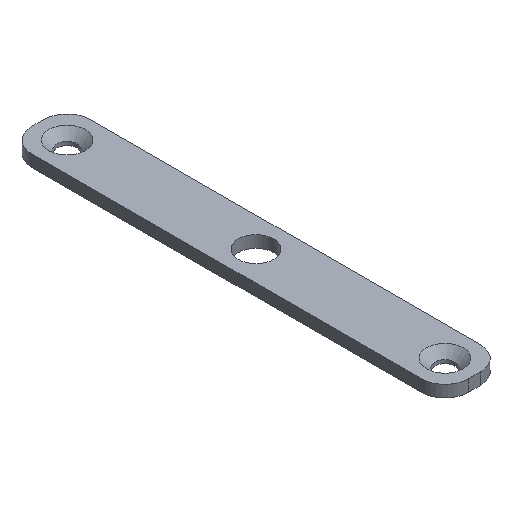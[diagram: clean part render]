
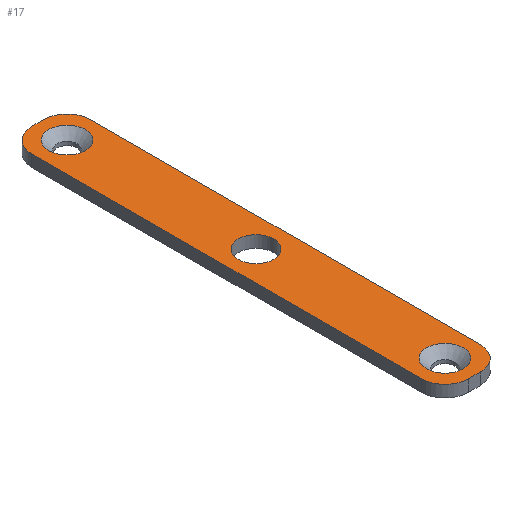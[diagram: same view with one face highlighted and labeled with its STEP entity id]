
A CAD part, isometric view. The second image highlights one B-rep face of the part: STEP entity #17.
In plain terms, the highlighted planar face has unit normal (0, 0, 1).
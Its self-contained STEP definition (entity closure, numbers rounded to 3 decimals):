
#17 = ADVANCED_FACE('',(#18,#88,#99,#110),#121,.T.);
#18 = FACE_BOUND('',#19,.T.);
#19 = EDGE_LOOP('',(#20,#30,#39,#47,#56,#64,#73,#81));
#20 = ORIENTED_EDGE('',*,*,#21,.F.);
#21 = EDGE_CURVE('',#22,#24,#26,.T.);
#22 = VERTEX_POINT('',#23);
#23 = CARTESIAN_POINT('',(-2.5,-4.11,9.5));
#24 = VERTEX_POINT('',#25);
#25 = CARTESIAN_POINT('',(-2.5,28.89,9.5));
#26 = LINE('',#27,#28);
#27 = CARTESIAN_POINT('',(-2.5,-6.11,9.5));
#28 = VECTOR('',#29,1.);
#29 = DIRECTION('',(0.,1.,0.));
#30 = ORIENTED_EDGE('',*,*,#31,.T.);
#31 = EDGE_CURVE('',#22,#32,#34,.T.);
#32 = VERTEX_POINT('',#33);
#33 = CARTESIAN_POINT('',(-0.5,-6.11,9.5));
#34 = CIRCLE('',#35,2.);
#35 = AXIS2_PLACEMENT_3D('',#36,#37,#38);
#36 = CARTESIAN_POINT('',(-0.5,-4.11,9.5));
#37 = DIRECTION('',(-0.,0.,1.));
#38 = DIRECTION('',(0.,-1.,0.));
#39 = ORIENTED_EDGE('',*,*,#40,.T.);
#40 = EDGE_CURVE('',#32,#41,#43,.T.);
#41 = VERTEX_POINT('',#42);
#42 = CARTESIAN_POINT('',(0.5,-6.11,9.5));
#43 = LINE('',#44,#45);
#44 = CARTESIAN_POINT('',(-2.5,-6.11,9.5));
#45 = VECTOR('',#46,1.);
#46 = DIRECTION('',(1.,0.,0.));
#47 = ORIENTED_EDGE('',*,*,#48,.F.);
#48 = EDGE_CURVE('',#49,#41,#51,.T.);
#49 = VERTEX_POINT('',#50);
#50 = CARTESIAN_POINT('',(2.5,-4.11,9.5));
#51 = CIRCLE('',#52,2.);
#52 = AXIS2_PLACEMENT_3D('',#53,#54,#55);
#53 = CARTESIAN_POINT('',(0.5,-4.11,9.5));
#54 = DIRECTION('',(-0.,-0.,-1.));
#55 = DIRECTION('',(0.,-1.,0.));
#56 = ORIENTED_EDGE('',*,*,#57,.T.);
#57 = EDGE_CURVE('',#49,#58,#60,.T.);
#58 = VERTEX_POINT('',#59);
#59 = CARTESIAN_POINT('',(2.5,28.89,9.5));
#60 = LINE('',#61,#62);
#61 = CARTESIAN_POINT('',(2.5,-6.11,9.5));
#62 = VECTOR('',#63,1.);
#63 = DIRECTION('',(0.,1.,0.));
#64 = ORIENTED_EDGE('',*,*,#65,.T.);
#65 = EDGE_CURVE('',#58,#66,#68,.T.);
#66 = VERTEX_POINT('',#67);
#67 = CARTESIAN_POINT('',(0.5,30.89,9.5));
#68 = CIRCLE('',#69,2.);
#69 = AXIS2_PLACEMENT_3D('',#70,#71,#72);
#70 = CARTESIAN_POINT('',(0.5,28.89,9.5));
#71 = DIRECTION('',(-0.,0.,1.));
#72 = DIRECTION('',(0.,-1.,0.));
#73 = ORIENTED_EDGE('',*,*,#74,.F.);
#74 = EDGE_CURVE('',#75,#66,#77,.T.);
#75 = VERTEX_POINT('',#76);
#76 = CARTESIAN_POINT('',(-0.5,30.89,9.5));
#77 = LINE('',#78,#79);
#78 = CARTESIAN_POINT('',(-2.5,30.89,9.5));
#79 = VECTOR('',#80,1.);
#80 = DIRECTION('',(1.,0.,0.));
#81 = ORIENTED_EDGE('',*,*,#82,.F.);
#82 = EDGE_CURVE('',#24,#75,#83,.T.);
#83 = CIRCLE('',#84,2.);
#84 = AXIS2_PLACEMENT_3D('',#85,#86,#87);
#85 = CARTESIAN_POINT('',(-0.5,28.89,9.5));
#86 = DIRECTION('',(-0.,-0.,-1.));
#87 = DIRECTION('',(0.,-1.,0.));
#88 = FACE_BOUND('',#89,.T.);
#89 = EDGE_LOOP('',(#90));
#90 = ORIENTED_EDGE('',*,*,#91,.F.);
#91 = EDGE_CURVE('',#92,#92,#94,.T.);
#92 = VERTEX_POINT('',#93);
#93 = CARTESIAN_POINT('',(1.55,-3.61,9.5));
#94 = CIRCLE('',#95,1.55);
#95 = AXIS2_PLACEMENT_3D('',#96,#97,#98);
#96 = CARTESIAN_POINT('',(0.,-3.61,9.5));
#97 = DIRECTION('',(0.,0.,1.));
#98 = DIRECTION('',(1.,0.,0.));
#99 = FACE_BOUND('',#100,.T.);
#100 = EDGE_LOOP('',(#101));
#101 = ORIENTED_EDGE('',*,*,#102,.F.);
#102 = EDGE_CURVE('',#103,#103,#105,.T.);
#103 = VERTEX_POINT('',#104);
#104 = CARTESIAN_POINT('',(1.5,12.39,9.5));
#105 = CIRCLE('',#106,1.5);
#106 = AXIS2_PLACEMENT_3D('',#107,#108,#109);
#107 = CARTESIAN_POINT('',(0.,12.39,9.5));
#108 = DIRECTION('',(0.,0.,1.));
#109 = DIRECTION('',(1.,0.,0.));
#110 = FACE_BOUND('',#111,.T.);
#111 = EDGE_LOOP('',(#112));
#112 = ORIENTED_EDGE('',*,*,#113,.F.);
#113 = EDGE_CURVE('',#114,#114,#116,.T.);
#114 = VERTEX_POINT('',#115);
#115 = CARTESIAN_POINT('',(1.55,28.39,9.5));
#116 = CIRCLE('',#117,1.55);
#117 = AXIS2_PLACEMENT_3D('',#118,#119,#120);
#118 = CARTESIAN_POINT('',(0.,28.39,9.5));
#119 = DIRECTION('',(0.,0.,1.));
#120 = DIRECTION('',(1.,0.,0.));
#121 = PLANE('',#122);
#122 = AXIS2_PLACEMENT_3D('',#123,#124,#125);
#123 = CARTESIAN_POINT('',(-2.5,-6.11,9.5));
#124 = DIRECTION('',(0.,0.,1.));
#125 = DIRECTION('',(1.,0.,0.));
